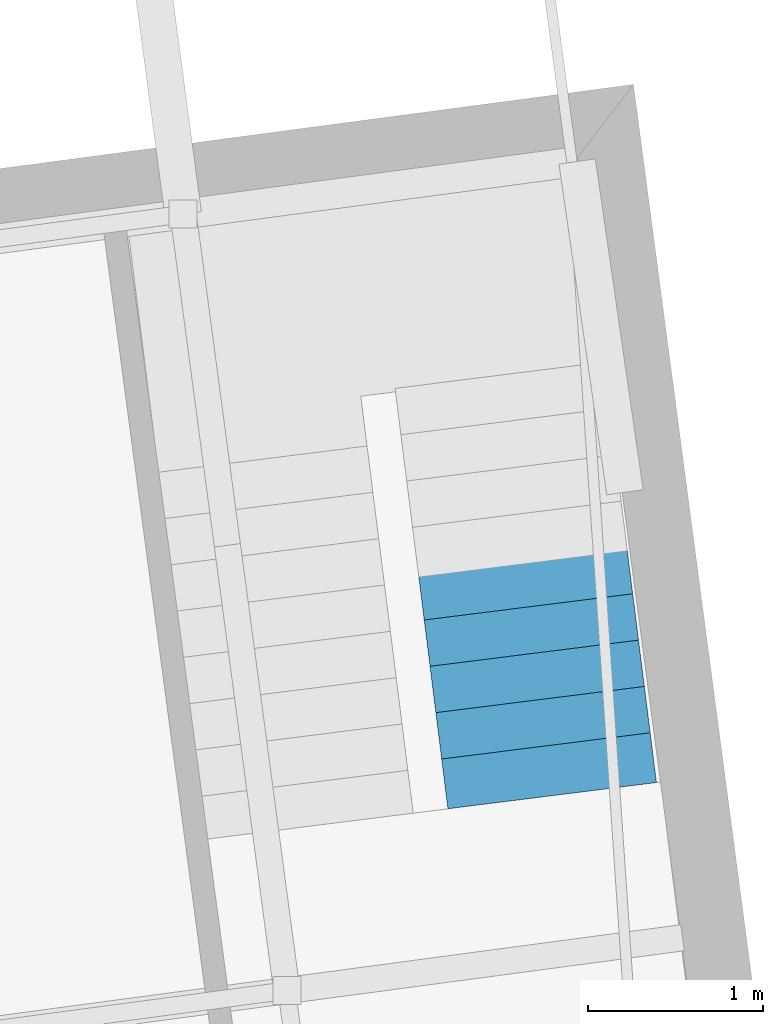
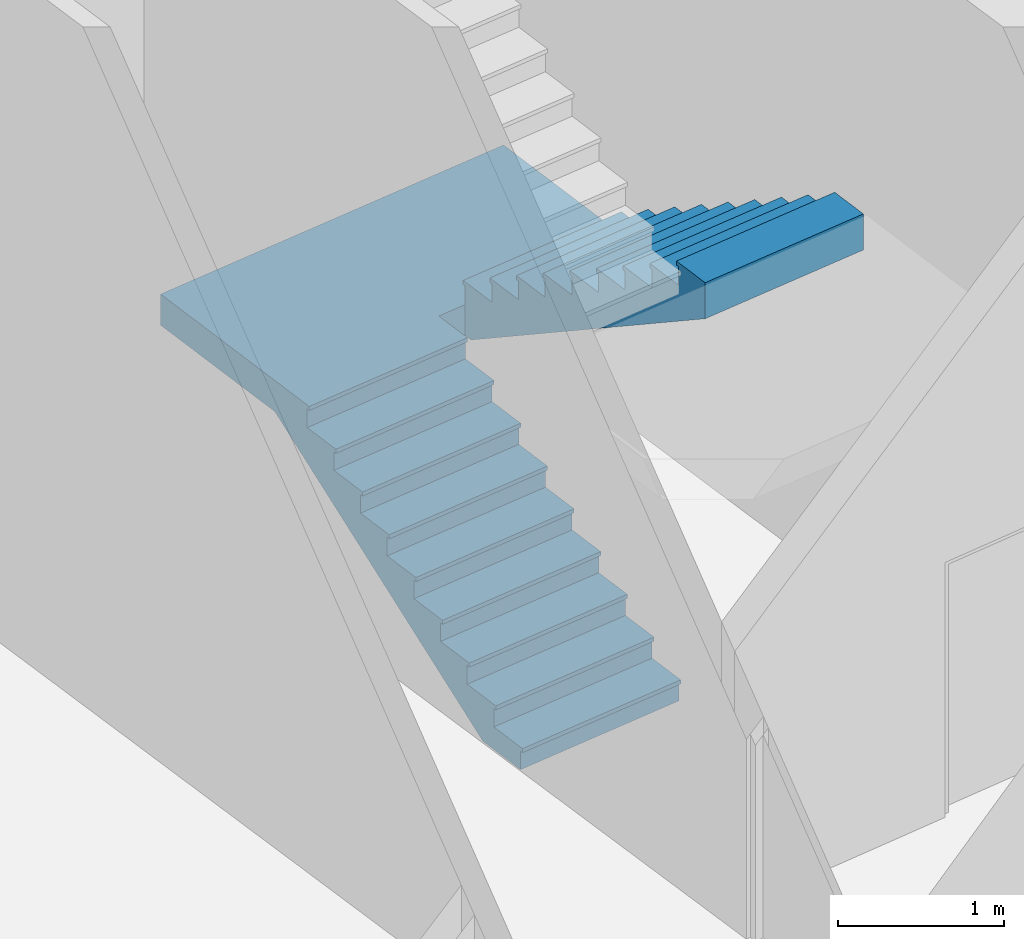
# One storey, part 39 of 40: 1 stair.
"""IFC2X3 building model written with IfcOpenShell, lengths in metres."""

from ifc_helpers import new_model, entity, si_unit, converted_unit, money_unit, direction, frame, origin_with_axes, place, context, subcontext, project, spatial, faceted_brep, material, element, save


model = new_model("IFC2X3")

# Units and contexts
model_context = context("Model", 3, precision=1e-05, world=origin_with_axes(), true_north=direction((0.0, 1.0)))
body_context = subcontext(model_context, "Body", "Model", "MODEL_VIEW")
ifc_project = project(units=[si_unit("LENGTHUNIT", "METRE"), si_unit("AREAUNIT", "SQUARE_METRE"), si_unit("VOLUMEUNIT", "CUBIC_METRE"), converted_unit("PLANEANGLEUNIT", "DEGREE", entity("IfcPlaneAngleMeasure", 0.0174532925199), si_unit("PLANEANGLEUNIT", "RADIAN"), dimensions=[0, 0, 0, 0, 0, 0, 0]), si_unit("SOLIDANGLEUNIT", "STERADIAN"), money_unit("EUR"), converted_unit("TIMEUNIT", "Year", entity("IfcTimeMeasure", 31556926.0), si_unit("TIMEUNIT", "SECOND"), dimensions=[0, 0, 0, 0, 0, 0, 0]), si_unit("MASSUNIT", "GRAM"), si_unit("THERMODYNAMICTEMPERATUREUNIT", "DEGREE_CELSIUS"), si_unit("LUMINOUSINTENSITYUNIT", "LUMEN")], contexts=[model_context])

# Site, building, storey
site_placement = place(None, origin_with_axes())
site = spatial("IfcSite", under=ifc_project, at=site_placement, Name="Undefined", CompositionType="ELEMENT")
building_placement = place(site_placement, origin_with_axes())
building = spatial("IfcBuilding", under=site, at=building_placement, Name="Undefined", CompositionType="ELEMENT")
storey_placement = place(building_placement, origin_with_axes())
storey = spatial("IfcBuildingStorey", under=building, at=storey_placement, Name="Rez de chauss\x8ee", CompositionType="ELEMENT", Elevation=0.0)

# Stair
ifc_material = material(Name="Concrete Block")
stair_placement = place(storey_placement, frame((64.8815616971, 23.589487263, 0.0), z_axis=(0.0, 0.0, 1.0), x_axis=(0.12477451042, -0.992185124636, 0.0)))
element("IfcStair", 1, at=stair_placement, inside=storey, material=ifc_material, Name="Stair_02", ObjectType="STAIR", ShapeType="NOTDEFINED", context=body_context, shape_type="Brep", body=[
    faceted_brep([(-0.377359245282, 0.0, 0.0), (-2.45735924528, 0.0, 1.27), (-2.45735924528, 1.2, 1.27), (-0.377359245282, 1.2, 0.0), (-0.02, 0.0, 0.0), (-0.02, 0.0, 0.136666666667), (-0.286666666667, 0.0, 0.136666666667), (-0.286666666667, 0.0, 0.303333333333), (-0.553333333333, 0.0, 0.303333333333), (-0.553333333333, 0.0, 0.47), (-0.82, 0.0, 0.47), (-0.82, 0.0, 0.636666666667), (-1.08666666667, 0.0, 0.636666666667), (-1.08666666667, 0.0, 0.803333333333), (-1.35333333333, 0.0, 0.803333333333), (-1.35333333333, 0.0, 0.97), (-1.62, 0.0, 0.97), (-1.62, 0.0, 1.13666666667), (-1.88666666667, 0.0, 1.13666666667), (-1.88666666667, 0.0, 1.30333333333), (-2.15333333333, 0.0, 1.30333333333), (-2.15333333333, 0.0, 1.47), (-2.42, 0.0, 1.47), (-3.6, 0.0, 1.47), (-3.6, 0.0, 1.27), (-3.6, 1.2, 1.27), (-3.6, 1.2, 1.47), (-2.42, 1.2, 1.47), (-2.15333333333, 1.2, 1.47), (-2.15333333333, 1.2, 1.30333333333), (-1.88666666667, 1.2, 1.30333333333), (-1.88666666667, 1.2, 1.13666666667), (-1.62, 1.2, 1.13666666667), (-1.62, 1.2, 0.97), (-1.35333333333, 1.2, 0.97), (-1.35333333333, 1.2, 0.803333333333), (-1.08666666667, 1.2, 0.803333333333), (-1.08666666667, 1.2, 0.636666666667), (-0.82, 1.2, 0.636666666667), (-0.82, 1.2, 0.47), (-0.553333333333, 1.2, 0.47), (-0.553333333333, 1.2, 0.303333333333), (-0.286666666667, 1.2, 0.303333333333), (-0.286666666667, 1.2, 0.136666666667), (-0.02, 1.2, 0.136666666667), (-0.02, 1.2, 0.0)], [[[0, 1, 2, 3]], [[0, 4, 5, 6, 7, 8, 9, 10, 11, 12, 13, 14, 15, 16, 17, 18, 19, 20, 21, 22, 23, 24, 1]], [[1, 24, 25, 2]], [[3, 2, 25, 26, 27, 28, 29, 30, 31, 32, 33, 34, 35, 36, 37, 38, 39, 40, 41, 42, 43, 44, 45]], [[4, 0, 3, 45]], [[5, 4, 45, 44]], [[6, 5, 44, 43]], [[7, 6, 43, 42]], [[8, 7, 42, 41]], [[9, 8, 41, 40]], [[10, 9, 40, 39]], [[11, 10, 39, 38]], [[12, 11, 38, 37]], [[13, 12, 37, 36]], [[14, 13, 36, 35]], [[15, 14, 35, 34]], [[16, 15, 34, 33]], [[17, 16, 33, 32]], [[18, 17, 32, 31]], [[19, 18, 31, 30]], [[20, 19, 30, 29]], [[21, 20, 29, 28]], [[22, 21, 28, 27]], [[23, 22, 27, 26]], [[24, 23, 26, 25]]]),
    faceted_brep([(-2.4, 1.2, 1.47), (-2.4, 1.2, 1.27), (-2.4, 1.4, 1.27), (-2.4, 1.4, 1.47), (-3.6, 1.2, 1.47), (-3.6, 1.2, 1.27), (-2.45735924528, 1.2, 1.27), (-2.45735924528, 1.4, 1.27), (-3.6, 1.4, 1.27), (-3.6, 1.4, 1.47)], [[[0, 1, 2, 3]], [[0, 4, 5, 6, 1]], [[1, 6, 7, 2]], [[3, 2, 7, 8, 9]], [[4, 0, 3, 9]], [[5, 4, 9, 8]], [[6, 5, 8, 7]]]),
    faceted_brep([(-2.4, 1.4, 1.47), (-2.4, 1.4, 1.27), (-2.4, 2.6, 1.27), (-2.4, 2.6, 1.47), (-3.6, 1.4, 1.47), (-3.6, 1.4, 1.27), (-3.6, 2.6, 1.27), (-3.6, 2.6, 1.47)], [[[0, 1, 2, 3]], [[0, 4, 5, 1]], [[1, 5, 6, 2]], [[3, 2, 6, 7]], [[4, 0, 3, 7]], [[5, 4, 7, 6]]]),
    faceted_brep([(-2.4, 1.4, 1.27), (-2.4, 2.6, 1.27), (-2.34264075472, 2.6, 1.27), (-2.34264075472, 1.4, 1.27), (-2.4, 1.4, 1.47), (-2.4, 2.6, 1.47), (-2.38, 2.6, 1.47), (-2.38, 2.6, 1.63666666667), (-2.11333333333, 2.6, 1.63666666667), (-2.11333333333, 2.6, 1.80333333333), (-1.84666666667, 2.6, 1.80333333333), (-1.84666666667, 2.6, 1.97), (-1.58, 2.6, 1.97), (-1.58, 2.6, 2.13666666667), (-1.31333333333, 2.6, 2.13666666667), (-1.31333333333, 2.6, 2.30333333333), (-1.04666666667, 2.6, 2.30333333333), (-1.04666666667, 2.6, 2.47), (-0.78, 2.6, 2.47), (-0.78, 2.6, 2.63666666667), (-0.513333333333, 2.6, 2.63666666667), (-0.513333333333, 2.6, 2.80333333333), (-0.246666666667, 2.6, 2.80333333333), (-0.246666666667, 2.6, 2.97), (0.0, 2.6, 2.97), (0.0, 2.6, 2.7341504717), (0.0, 1.4, 2.7341504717), (0.0, 1.4, 2.97), (-0.246666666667, 1.4, 2.97), (-0.246666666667, 1.4, 2.80333333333), (-0.513333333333, 1.4, 2.80333333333), (-0.513333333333, 1.4, 2.63666666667), (-0.78, 1.4, 2.63666666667), (-0.78, 1.4, 2.47), (-1.04666666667, 1.4, 2.47), (-1.04666666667, 1.4, 2.30333333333), (-1.31333333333, 1.4, 2.30333333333), (-1.31333333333, 1.4, 2.13666666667), (-1.58, 1.4, 2.13666666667), (-1.58, 1.4, 1.97), (-1.84666666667, 1.4, 1.97), (-1.84666666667, 1.4, 1.80333333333), (-2.11333333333, 1.4, 1.80333333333), (-2.11333333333, 1.4, 1.63666666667), (-2.38, 1.4, 1.63666666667), (-2.38, 1.4, 1.47)], [[[0, 1, 2, 3]], [[4, 5, 1, 0]], [[1, 5, 6, 7, 8, 9, 10, 11, 12, 13, 14, 15, 16, 17, 18, 19, 20, 21, 22, 23, 24, 25, 2]], [[3, 2, 25, 26]], [[0, 3, 26, 27, 28, 29, 30, 31, 32, 33, 34, 35, 36, 37, 38, 39, 40, 41, 42, 43, 44, 45, 4]], [[45, 6, 5, 4]], [[44, 7, 6, 45]], [[43, 8, 7, 44]], [[42, 9, 8, 43]], [[41, 10, 9, 42]], [[40, 11, 10, 41]], [[39, 12, 11, 40]], [[38, 13, 12, 39]], [[37, 14, 13, 38]], [[36, 15, 14, 37]], [[35, 16, 15, 36]], [[34, 17, 16, 35]], [[33, 18, 17, 34]], [[32, 19, 18, 33]], [[31, 20, 19, 32]], [[30, 21, 20, 31]], [[29, 22, 21, 30]], [[28, 23, 22, 29]], [[27, 24, 23, 28]], [[26, 25, 24, 27]]]),
    faceted_brep([(0.0, 0.0, 0.0), (-0.02, 0.0, 0.0), (-0.02, 1.2, 0.0), (0.0, 1.2, 0.0), (0.0, 0.0, 0.136666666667), (-0.02, 0.0, 0.136666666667), (-0.02, 1.2, 0.136666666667), (0.0, 1.2, 0.136666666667)], [[[0, 1, 2, 3]], [[0, 4, 5, 1]], [[1, 5, 6, 2]], [[3, 2, 6, 7]], [[4, 0, 3, 7]], [[5, 4, 7, 6]]]),
    faceted_brep([(-0.266666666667, 0.0, 0.166666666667), (-0.286666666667, 0.0, 0.166666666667), (-0.286666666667, 1.2, 0.166666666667), (-0.266666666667, 1.2, 0.166666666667), (-0.266666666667, 0.0, 0.303333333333), (-0.286666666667, 0.0, 0.303333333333), (-0.286666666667, 1.2, 0.303333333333), (-0.266666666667, 1.2, 0.303333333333)], [[[0, 1, 2, 3]], [[0, 4, 5, 1]], [[1, 5, 6, 2]], [[3, 2, 6, 7]], [[4, 0, 3, 7]], [[5, 4, 7, 6]]]),
    faceted_brep([(-0.533333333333, 0.0, 0.333333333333), (-0.553333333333, 0.0, 0.333333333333), (-0.553333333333, 1.2, 0.333333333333), (-0.533333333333, 1.2, 0.333333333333), (-0.533333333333, 0.0, 0.47), (-0.553333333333, 0.0, 0.47), (-0.553333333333, 1.2, 0.47), (-0.533333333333, 1.2, 0.47)], [[[0, 1, 2, 3]], [[0, 4, 5, 1]], [[1, 5, 6, 2]], [[3, 2, 6, 7]], [[4, 0, 3, 7]], [[5, 4, 7, 6]]]),
    faceted_brep([(-0.8, 0.0, 0.5), (-0.82, 0.0, 0.5), (-0.82, 1.2, 0.5), (-0.8, 1.2, 0.5), (-0.8, 0.0, 0.636666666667), (-0.82, 0.0, 0.636666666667), (-0.82, 1.2, 0.636666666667), (-0.8, 1.2, 0.636666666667)], [[[0, 1, 2, 3]], [[0, 4, 5, 1]], [[1, 5, 6, 2]], [[3, 2, 6, 7]], [[4, 0, 3, 7]], [[5, 4, 7, 6]]]),
    faceted_brep([(-1.06666666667, 0.0, 0.666666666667), (-1.08666666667, 0.0, 0.666666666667), (-1.08666666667, 1.2, 0.666666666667), (-1.06666666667, 1.2, 0.666666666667), (-1.06666666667, 0.0, 0.803333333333), (-1.08666666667, 0.0, 0.803333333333), (-1.08666666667, 1.2, 0.803333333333), (-1.06666666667, 1.2, 0.803333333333)], [[[0, 1, 2, 3]], [[0, 4, 5, 1]], [[1, 5, 6, 2]], [[3, 2, 6, 7]], [[4, 0, 3, 7]], [[5, 4, 7, 6]]]),
    faceted_brep([(-1.33333333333, 0.0, 0.833333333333), (-1.35333333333, 0.0, 0.833333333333), (-1.35333333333, 1.2, 0.833333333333), (-1.33333333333, 1.2, 0.833333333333), (-1.33333333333, 0.0, 0.97), (-1.35333333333, 0.0, 0.97), (-1.35333333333, 1.2, 0.97), (-1.33333333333, 1.2, 0.97)], [[[0, 1, 2, 3]], [[0, 4, 5, 1]], [[1, 5, 6, 2]], [[3, 2, 6, 7]], [[4, 0, 3, 7]], [[5, 4, 7, 6]]]),
    faceted_brep([(-1.6, 0.0, 1.0), (-1.62, 0.0, 1.0), (-1.62, 1.2, 1.0), (-1.6, 1.2, 1.0), (-1.6, 0.0, 1.13666666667), (-1.62, 0.0, 1.13666666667), (-1.62, 1.2, 1.13666666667), (-1.6, 1.2, 1.13666666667)], [[[0, 1, 2, 3]], [[0, 4, 5, 1]], [[1, 5, 6, 2]], [[3, 2, 6, 7]], [[4, 0, 3, 7]], [[5, 4, 7, 6]]]),
    faceted_brep([(-1.86666666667, 0.0, 1.16666666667), (-1.88666666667, 0.0, 1.16666666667), (-1.88666666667, 1.2, 1.16666666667), (-1.86666666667, 1.2, 1.16666666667), (-1.86666666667, 0.0, 1.30333333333), (-1.88666666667, 0.0, 1.30333333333), (-1.88666666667, 1.2, 1.30333333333), (-1.86666666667, 1.2, 1.30333333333)], [[[0, 1, 2, 3]], [[0, 4, 5, 1]], [[1, 5, 6, 2]], [[3, 2, 6, 7]], [[4, 0, 3, 7]], [[5, 4, 7, 6]]]),
    faceted_brep([(-2.13333333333, 0.0, 1.33333333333), (-2.15333333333, 0.0, 1.33333333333), (-2.15333333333, 1.2, 1.33333333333), (-2.13333333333, 1.2, 1.33333333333), (-2.13333333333, 0.0, 1.47), (-2.15333333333, 0.0, 1.47), (-2.15333333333, 1.2, 1.47), (-2.13333333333, 1.2, 1.47)], [[[0, 1, 2, 3]], [[0, 4, 5, 1]], [[1, 5, 6, 2]], [[3, 2, 6, 7]], [[4, 0, 3, 7]], [[5, 4, 7, 6]]]),
    faceted_brep([(-2.4, 1.4, 1.5), (-2.4, 2.6, 1.5), (-2.38, 2.6, 1.5), (-2.38, 1.4, 1.5), (-2.4, 1.4, 1.63666666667), (-2.4, 2.6, 1.63666666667), (-2.38, 2.6, 1.63666666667), (-2.38, 1.4, 1.63666666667)], [[[0, 1, 2, 3]], [[4, 5, 1, 0]], [[1, 5, 6, 2]], [[3, 2, 6, 7]], [[0, 3, 7, 4]], [[7, 6, 5, 4]]]),
    faceted_brep([(-2.13333333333, 1.4, 1.66666666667), (-2.13333333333, 2.6, 1.66666666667), (-2.11333333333, 2.6, 1.66666666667), (-2.11333333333, 1.4, 1.66666666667), (-2.13333333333, 1.4, 1.80333333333), (-2.13333333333, 2.6, 1.80333333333), (-2.11333333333, 2.6, 1.80333333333), (-2.11333333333, 1.4, 1.80333333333)], [[[0, 1, 2, 3]], [[4, 5, 1, 0]], [[1, 5, 6, 2]], [[3, 2, 6, 7]], [[0, 3, 7, 4]], [[7, 6, 5, 4]]]),
    faceted_brep([(-1.86666666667, 1.4, 1.83333333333), (-1.86666666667, 2.6, 1.83333333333), (-1.84666666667, 2.6, 1.83333333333), (-1.84666666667, 1.4, 1.83333333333), (-1.86666666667, 1.4, 1.97), (-1.86666666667, 2.6, 1.97), (-1.84666666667, 2.6, 1.97), (-1.84666666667, 1.4, 1.97)], [[[0, 1, 2, 3]], [[4, 5, 1, 0]], [[1, 5, 6, 2]], [[3, 2, 6, 7]], [[0, 3, 7, 4]], [[7, 6, 5, 4]]]),
    faceted_brep([(-1.6, 1.4, 2.0), (-1.6, 2.6, 2.0), (-1.58, 2.6, 2.0), (-1.58, 1.4, 2.0), (-1.6, 1.4, 2.13666666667), (-1.6, 2.6, 2.13666666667), (-1.58, 2.6, 2.13666666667), (-1.58, 1.4, 2.13666666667)], [[[0, 1, 2, 3]], [[4, 5, 1, 0]], [[1, 5, 6, 2]], [[3, 2, 6, 7]], [[0, 3, 7, 4]], [[7, 6, 5, 4]]]),
    faceted_brep([(-1.33333333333, 1.4, 2.16666666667), (-1.33333333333, 2.6, 2.16666666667), (-1.31333333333, 2.6, 2.16666666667), (-1.31333333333, 1.4, 2.16666666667), (-1.33333333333, 1.4, 2.30333333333), (-1.33333333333, 2.6, 2.30333333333), (-1.31333333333, 2.6, 2.30333333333), (-1.31333333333, 1.4, 2.30333333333)], [[[0, 1, 2, 3]], [[4, 5, 1, 0]], [[1, 5, 6, 2]], [[3, 2, 6, 7]], [[0, 3, 7, 4]], [[7, 6, 5, 4]]]),
    faceted_brep([(-1.06666666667, 1.4, 2.33333333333), (-1.06666666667, 2.6, 2.33333333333), (-1.04666666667, 2.6, 2.33333333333), (-1.04666666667, 1.4, 2.33333333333), (-1.06666666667, 1.4, 2.47), (-1.06666666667, 2.6, 2.47), (-1.04666666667, 2.6, 2.47), (-1.04666666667, 1.4, 2.47)], [[[0, 1, 2, 3]], [[4, 5, 1, 0]], [[1, 5, 6, 2]], [[3, 2, 6, 7]], [[0, 3, 7, 4]], [[7, 6, 5, 4]]]),
    faceted_brep([(-0.8, 1.4, 2.5), (-0.8, 2.6, 2.5), (-0.78, 2.6, 2.5), (-0.78, 1.4, 2.5), (-0.8, 1.4, 2.63666666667), (-0.8, 2.6, 2.63666666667), (-0.78, 2.6, 2.63666666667), (-0.78, 1.4, 2.63666666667)], [[[0, 1, 2, 3]], [[4, 5, 1, 0]], [[1, 5, 6, 2]], [[3, 2, 6, 7]], [[0, 3, 7, 4]], [[7, 6, 5, 4]]]),
    faceted_brep([(-0.533333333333, 1.4, 2.66666666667), (-0.533333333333, 2.6, 2.66666666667), (-0.513333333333, 2.6, 2.66666666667), (-0.513333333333, 1.4, 2.66666666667), (-0.533333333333, 1.4, 2.80333333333), (-0.533333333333, 2.6, 2.80333333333), (-0.513333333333, 2.6, 2.80333333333), (-0.513333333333, 1.4, 2.80333333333)], [[[0, 1, 2, 3]], [[4, 5, 1, 0]], [[1, 5, 6, 2]], [[3, 2, 6, 7]], [[0, 3, 7, 4]], [[7, 6, 5, 4]]]),
    faceted_brep([(-0.266666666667, 1.4, 2.83333333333), (-0.266666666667, 2.6, 2.83333333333), (-0.246666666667, 2.6, 2.83333333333), (-0.246666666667, 1.4, 2.83333333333), (-0.266666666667, 1.4, 2.97), (-0.266666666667, 2.6, 2.97), (-0.246666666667, 2.6, 2.97), (-0.246666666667, 1.4, 2.97)], [[[0, 1, 2, 3]], [[4, 5, 1, 0]], [[1, 5, 6, 2]], [[3, 2, 6, 7]], [[0, 3, 7, 4]], [[7, 6, 5, 4]]]),
    faceted_brep([(0.02, 0.0, 0.136666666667), (-0.286666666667, 0.0, 0.136666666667), (-0.286666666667, 1.2, 0.136666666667), (0.02, 1.2, 0.136666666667), (0.02, 0.0, 0.166666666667), (-0.286666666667, 0.0, 0.166666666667), (-0.286666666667, 1.2, 0.166666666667), (0.02, 1.2, 0.166666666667)], [[[0, 1, 2, 3]], [[0, 4, 5, 1]], [[1, 5, 6, 2]], [[3, 2, 6, 7]], [[4, 0, 3, 7]], [[5, 4, 7, 6]]]),
    faceted_brep([(-0.246666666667, 0.0, 0.303333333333), (-0.553333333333, 0.0, 0.303333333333), (-0.553333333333, 1.2, 0.303333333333), (-0.246666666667, 1.2, 0.303333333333), (-0.246666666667, 0.0, 0.333333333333), (-0.553333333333, 0.0, 0.333333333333), (-0.553333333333, 1.2, 0.333333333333), (-0.246666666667, 1.2, 0.333333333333)], [[[0, 1, 2, 3]], [[0, 4, 5, 1]], [[1, 5, 6, 2]], [[3, 2, 6, 7]], [[4, 0, 3, 7]], [[5, 4, 7, 6]]]),
    faceted_brep([(-0.513333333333, 0.0, 0.47), (-0.82, 0.0, 0.47), (-0.82, 1.2, 0.47), (-0.513333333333, 1.2, 0.47), (-0.513333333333, 0.0, 0.5), (-0.82, 0.0, 0.5), (-0.82, 1.2, 0.5), (-0.513333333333, 1.2, 0.5)], [[[0, 1, 2, 3]], [[0, 4, 5, 1]], [[1, 5, 6, 2]], [[3, 2, 6, 7]], [[4, 0, 3, 7]], [[5, 4, 7, 6]]]),
    faceted_brep([(-0.78, 0.0, 0.636666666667), (-1.08666666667, 0.0, 0.636666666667), (-1.08666666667, 1.2, 0.636666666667), (-0.78, 1.2, 0.636666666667), (-0.78, 0.0, 0.666666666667), (-1.08666666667, 0.0, 0.666666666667), (-1.08666666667, 1.2, 0.666666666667), (-0.78, 1.2, 0.666666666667)], [[[0, 1, 2, 3]], [[0, 4, 5, 1]], [[1, 5, 6, 2]], [[3, 2, 6, 7]], [[4, 0, 3, 7]], [[5, 4, 7, 6]]]),
    faceted_brep([(-1.04666666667, 0.0, 0.803333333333), (-1.35333333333, 0.0, 0.803333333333), (-1.35333333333, 1.2, 0.803333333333), (-1.04666666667, 1.2, 0.803333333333), (-1.04666666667, 0.0, 0.833333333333), (-1.35333333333, 0.0, 0.833333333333), (-1.35333333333, 1.2, 0.833333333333), (-1.04666666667, 1.2, 0.833333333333)], [[[0, 1, 2, 3]], [[0, 4, 5, 1]], [[1, 5, 6, 2]], [[3, 2, 6, 7]], [[4, 0, 3, 7]], [[5, 4, 7, 6]]]),
    faceted_brep([(-1.31333333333, 0.0, 0.97), (-1.62, 0.0, 0.97), (-1.62, 1.2, 0.97), (-1.31333333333, 1.2, 0.97), (-1.31333333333, 0.0, 1.0), (-1.62, 0.0, 1.0), (-1.62, 1.2, 1.0), (-1.31333333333, 1.2, 1.0)], [[[0, 1, 2, 3]], [[0, 4, 5, 1]], [[1, 5, 6, 2]], [[3, 2, 6, 7]], [[4, 0, 3, 7]], [[5, 4, 7, 6]]]),
    faceted_brep([(-1.58, 0.0, 1.13666666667), (-1.88666666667, 0.0, 1.13666666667), (-1.88666666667, 1.2, 1.13666666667), (-1.58, 1.2, 1.13666666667), (-1.58, 0.0, 1.16666666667), (-1.88666666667, 0.0, 1.16666666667), (-1.88666666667, 1.2, 1.16666666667), (-1.58, 1.2, 1.16666666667)], [[[0, 1, 2, 3]], [[0, 4, 5, 1]], [[1, 5, 6, 2]], [[3, 2, 6, 7]], [[4, 0, 3, 7]], [[5, 4, 7, 6]]]),
    faceted_brep([(-1.84666666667, 0.0, 1.30333333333), (-2.15333333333, 0.0, 1.30333333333), (-2.15333333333, 1.2, 1.30333333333), (-1.84666666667, 1.2, 1.30333333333), (-1.84666666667, 0.0, 1.33333333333), (-2.15333333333, 0.0, 1.33333333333), (-2.15333333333, 1.2, 1.33333333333), (-1.84666666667, 1.2, 1.33333333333)], [[[0, 1, 2, 3]], [[0, 4, 5, 1]], [[1, 5, 6, 2]], [[3, 2, 6, 7]], [[4, 0, 3, 7]], [[5, 4, 7, 6]]]),
    faceted_brep([(-2.11333333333, 0.0, 1.47), (-2.4, 0.0, 1.47), (-2.4, 1.2, 1.47), (-2.11333333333, 1.2, 1.47), (-2.11333333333, 0.0, 1.5), (-2.4, 0.0, 1.5), (-2.4, 1.2, 1.5), (-2.11333333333, 1.2, 1.5)], [[[0, 1, 2, 3]], [[0, 4, 5, 1]], [[1, 5, 6, 2]], [[3, 2, 6, 7]], [[4, 0, 3, 7]], [[5, 4, 7, 6]]]),
    faceted_brep([(-3.6, 0.0, 1.47), (-3.6, 0.0, 1.5), (-3.6, 1.4, 1.5), (-3.6, 1.4, 1.47), (-2.4, 0.0, 1.47), (-2.4, 0.0, 1.5), (-2.4, 1.4, 1.5), (-2.4, 1.4, 1.47)], [[[0, 1, 2, 3]], [[0, 4, 5, 1]], [[1, 5, 6, 2]], [[3, 2, 6, 7]], [[4, 0, 3, 7]], [[5, 4, 7, 6]]]),
    faceted_brep([(-3.6, 1.4, 1.47), (-3.6, 1.4, 1.5), (-3.6, 2.6, 1.5), (-3.6, 2.6, 1.47), (-2.38, 1.4, 1.47), (-2.38, 1.4, 1.5), (-2.38, 2.6, 1.5), (-2.38, 2.6, 1.47)], [[[0, 1, 2, 3]], [[0, 4, 5, 1]], [[1, 5, 6, 2]], [[3, 2, 6, 7]], [[4, 0, 3, 7]], [[5, 4, 7, 6]]]),
    faceted_brep([(-2.42, 1.4, 1.63666666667), (-2.42, 2.6, 1.63666666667), (-2.11333333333, 2.6, 1.63666666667), (-2.11333333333, 1.4, 1.63666666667), (-2.42, 1.4, 1.66666666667), (-2.42, 2.6, 1.66666666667), (-2.11333333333, 2.6, 1.66666666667), (-2.11333333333, 1.4, 1.66666666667)], [[[0, 1, 2, 3]], [[4, 5, 1, 0]], [[1, 5, 6, 2]], [[3, 2, 6, 7]], [[0, 3, 7, 4]], [[7, 6, 5, 4]]]),
    faceted_brep([(-2.15333333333, 1.4, 1.80333333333), (-2.15333333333, 2.6, 1.80333333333), (-1.84666666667, 2.6, 1.80333333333), (-1.84666666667, 1.4, 1.80333333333), (-2.15333333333, 1.4, 1.83333333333), (-2.15333333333, 2.6, 1.83333333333), (-1.84666666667, 2.6, 1.83333333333), (-1.84666666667, 1.4, 1.83333333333)], [[[0, 1, 2, 3]], [[4, 5, 1, 0]], [[1, 5, 6, 2]], [[3, 2, 6, 7]], [[0, 3, 7, 4]], [[7, 6, 5, 4]]]),
    faceted_brep([(-1.88666666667, 1.4, 1.97), (-1.88666666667, 2.6, 1.97), (-1.58, 2.6, 1.97), (-1.58, 1.4, 1.97), (-1.88666666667, 1.4, 2.0), (-1.88666666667, 2.6, 2.0), (-1.58, 2.6, 2.0), (-1.58, 1.4, 2.0)], [[[0, 1, 2, 3]], [[4, 5, 1, 0]], [[1, 5, 6, 2]], [[3, 2, 6, 7]], [[0, 3, 7, 4]], [[7, 6, 5, 4]]]),
    faceted_brep([(-1.62, 1.4, 2.13666666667), (-1.62, 2.6, 2.13666666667), (-1.31333333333, 2.6, 2.13666666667), (-1.31333333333, 1.4, 2.13666666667), (-1.62, 1.4, 2.16666666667), (-1.62, 2.6, 2.16666666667), (-1.31333333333, 2.6, 2.16666666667), (-1.31333333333, 1.4, 2.16666666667)], [[[0, 1, 2, 3]], [[4, 5, 1, 0]], [[1, 5, 6, 2]], [[3, 2, 6, 7]], [[0, 3, 7, 4]], [[7, 6, 5, 4]]]),
    faceted_brep([(-1.35333333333, 1.4, 2.30333333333), (-1.35333333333, 2.6, 2.30333333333), (-1.04666666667, 2.6, 2.30333333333), (-1.04666666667, 1.4, 2.30333333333), (-1.35333333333, 1.4, 2.33333333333), (-1.35333333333, 2.6, 2.33333333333), (-1.04666666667, 2.6, 2.33333333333), (-1.04666666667, 1.4, 2.33333333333)], [[[0, 1, 2, 3]], [[4, 5, 1, 0]], [[1, 5, 6, 2]], [[3, 2, 6, 7]], [[0, 3, 7, 4]], [[7, 6, 5, 4]]]),
    faceted_brep([(-1.08666666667, 1.4, 2.47), (-1.08666666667, 2.6, 2.47), (-0.78, 2.6, 2.47), (-0.78, 1.4, 2.47), (-1.08666666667, 1.4, 2.5), (-1.08666666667, 2.6, 2.5), (-0.78, 2.6, 2.5), (-0.78, 1.4, 2.5)], [[[0, 1, 2, 3]], [[4, 5, 1, 0]], [[1, 5, 6, 2]], [[3, 2, 6, 7]], [[0, 3, 7, 4]], [[7, 6, 5, 4]]]),
    faceted_brep([(-0.82, 1.4, 2.63666666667), (-0.82, 2.6, 2.63666666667), (-0.513333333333, 2.6, 2.63666666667), (-0.513333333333, 1.4, 2.63666666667), (-0.82, 1.4, 2.66666666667), (-0.82, 2.6, 2.66666666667), (-0.513333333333, 2.6, 2.66666666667), (-0.513333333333, 1.4, 2.66666666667)], [[[0, 1, 2, 3]], [[4, 5, 1, 0]], [[1, 5, 6, 2]], [[3, 2, 6, 7]], [[0, 3, 7, 4]], [[7, 6, 5, 4]]]),
    faceted_brep([(-0.553333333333, 1.4, 2.80333333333), (-0.553333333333, 2.6, 2.80333333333), (-0.246666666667, 2.6, 2.80333333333), (-0.246666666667, 1.4, 2.80333333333), (-0.553333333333, 1.4, 2.83333333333), (-0.553333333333, 2.6, 2.83333333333), (-0.246666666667, 2.6, 2.83333333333), (-0.246666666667, 1.4, 2.83333333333)], [[[0, 1, 2, 3]], [[4, 5, 1, 0]], [[1, 5, 6, 2]], [[3, 2, 6, 7]], [[0, 3, 7, 4]], [[7, 6, 5, 4]]]),
    faceted_brep([(-0.286666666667, 1.4, 2.97), (-0.286666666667, 2.6, 2.97), (0.0, 2.6, 2.97), (0.0, 1.4, 2.97), (-0.286666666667, 1.4, 3.0), (-0.286666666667, 2.6, 3.0), (0.0, 2.6, 3.0), (0.0, 1.4, 3.0)], [[[0, 1, 2, 3]], [[4, 5, 1, 0]], [[1, 5, 6, 2]], [[3, 2, 6, 7]], [[0, 3, 7, 4]], [[7, 6, 5, 4]]]),
])

save(model, "model.ifc")
